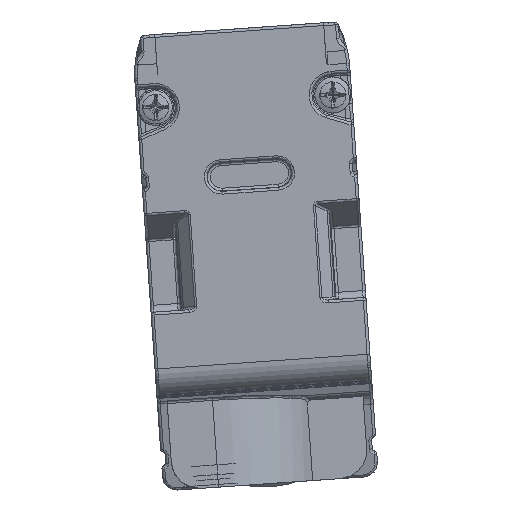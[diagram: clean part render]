
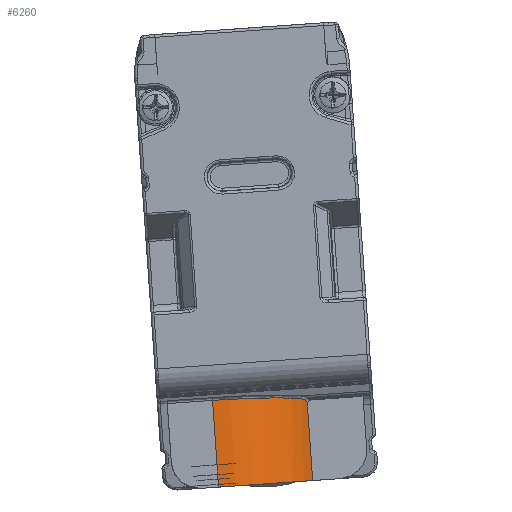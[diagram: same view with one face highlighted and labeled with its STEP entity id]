
A CAD part, front view. The second image highlights one B-rep face of the part: STEP entity #6260.
In plain terms, the highlighted cylindrical face has radius 7.5 mm (diameter 15 mm), a partial arc.
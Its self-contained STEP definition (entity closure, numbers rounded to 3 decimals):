
#563=ELLIPSE('',#22927,7.53,7.5);
#778=B_SPLINE_CURVE_WITH_KNOTS('',3,(#39839,#39840,#39841,#39842,#39843,
#39844,#39845),.UNSPECIFIED.,.F.,.F.,(4,3,4),(0.,0.485,1.),.UNSPECIFIED.);
#1523=FACE_OUTER_BOUND('',#7913,.T.);
#2865=LINE('',#39836,#4462);
#2866=LINE('',#39849,#4463);
#4462=VECTOR('',#27729,1.);
#4463=VECTOR('',#27732,1.);
#6260=ADVANCED_FACE('',(#1523),#6897,.T.);
#6897=CYLINDRICAL_SURFACE('',#22929,7.5);
#7913=EDGE_LOOP('',(#11547,#11548,#11549,#11550,#11551));
#11547=ORIENTED_EDGE('',*,*,#18430,.T.);
#11548=ORIENTED_EDGE('',*,*,#18431,.T.);
#11549=ORIENTED_EDGE('',*,*,#18432,.T.);
#11550=ORIENTED_EDGE('',*,*,#18433,.T.);
#11551=ORIENTED_EDGE('',*,*,#18434,.F.);
#15365=VERTEX_POINT('',#39837);
#15366=VERTEX_POINT('',#39838);
#15367=VERTEX_POINT('',#39846);
#15368=VERTEX_POINT('',#39848);
#15369=VERTEX_POINT('',#39850);
#18430=EDGE_CURVE('',#15365,#15366,#2865,.T.);
#18431=EDGE_CURVE('',#15366,#15367,#778,.T.);
#18432=EDGE_CURVE('',#15367,#15368,#563,.T.);
#18433=EDGE_CURVE('',#15368,#15369,#2866,.T.);
#18434=EDGE_CURVE('',#15365,#15369,#20749,.T.);
#20749=CIRCLE('',#22928,7.5);
#22927=AXIS2_PLACEMENT_3D('',#39847,#27730,#27731);
#22928=AXIS2_PLACEMENT_3D('',#39851,#27733,#27734);
#22929=AXIS2_PLACEMENT_3D('',#39852,#27735,#27736);
#27729=DIRECTION('',(-0.07,0.,0.998));
#27730=DIRECTION('',(0.069,-0.089,-0.994));
#27731=DIRECTION('',(0.006,0.996,-0.089));
#27732=DIRECTION('',(0.07,0.,-0.998));
#27733=DIRECTION('',(0.07,0.,-0.998));
#27734=DIRECTION('',(0.998,0.,0.07));
#27735=DIRECTION('',(0.07,0.,-0.998));
#27736=DIRECTION('',(0.,-1.,0.));
#39836=CARTESIAN_POINT('',(-40.701,-800.597,14.888));
#39837=CARTESIAN_POINT('',(-40.701,-800.597,14.888));
#39838=CARTESIAN_POINT('',(-41.088,-800.597,20.435));
#39839=CARTESIAN_POINT('',(-41.088,-800.597,20.435));
#39840=CARTESIAN_POINT('',(-41.139,-800.686,20.528));
#39841=CARTESIAN_POINT('',(-41.198,-800.793,20.603));
#39842=CARTESIAN_POINT('',(-41.263,-800.905,20.654));
#39843=CARTESIAN_POINT('',(-41.332,-801.024,20.708));
#39844=CARTESIAN_POINT('',(-41.408,-801.152,20.738));
#39845=CARTESIAN_POINT('',(-41.487,-801.278,20.743));
#39846=CARTESIAN_POINT('',(-41.487,-801.278,20.743));
#39847=CARTESIAN_POINT('',(-47.816,-797.318,19.944));
#39848=CARTESIAN_POINT('',(-47.863,-804.818,20.616));
#39849=CARTESIAN_POINT('',(-47.667,-804.818,17.815));
#39850=CARTESIAN_POINT('',(-47.43,-804.818,14.418));
#39851=CARTESIAN_POINT('',(-47.43,-797.318,14.418));
#39852=CARTESIAN_POINT('',(-52.434,-797.318,85.982));
